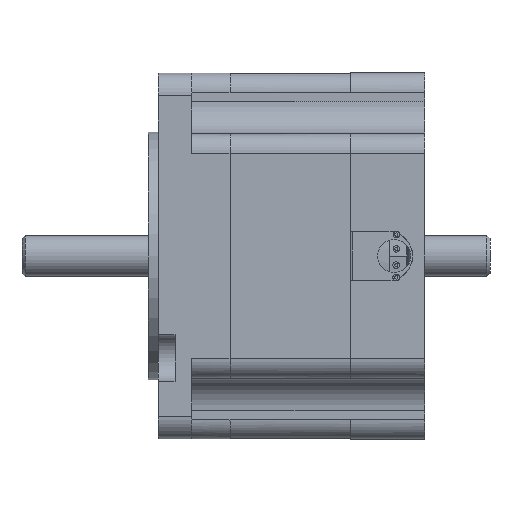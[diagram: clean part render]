
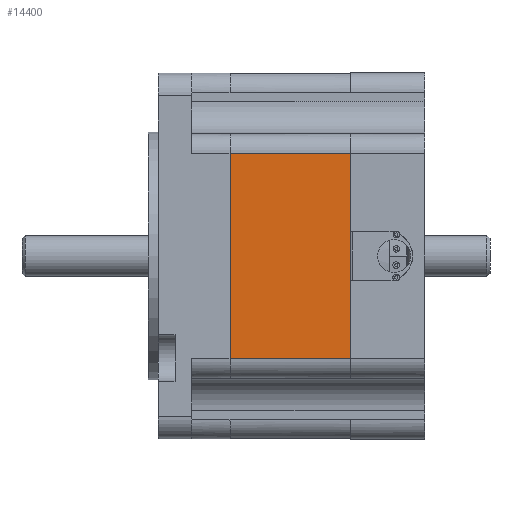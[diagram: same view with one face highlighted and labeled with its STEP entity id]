
A CAD part, front view. The second image highlights one B-rep face of the part: STEP entity #14400.
In plain terms, the highlighted planar face has unit normal (0, -1, 0).
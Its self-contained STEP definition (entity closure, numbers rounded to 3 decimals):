
#14306=CARTESIAN_POINT('',(29.494,-28.1,15.8));
#14307=VERTEX_POINT('',#14306);
#14336=CARTESIAN_POINT('',(11.,-28.1,15.8));
#14337=VERTEX_POINT('',#14336);
#14345=CARTESIAN_POINT('',(29.494,-28.1,15.8));
#14346=DIRECTION('',(-1.,0.,0.));
#14347=VECTOR('',#14346,18.494);
#14348=LINE('',#14345,#14347);
#14349=EDGE_CURVE('',#14307,#14337,#14348,.T.);
#14354=CARTESIAN_POINT('',(20.994,-28.1,0.));
#14355=DIRECTION('',(0.,0.,-1.));
#14356=DIRECTION('',(0.,-1.,0.));
#14357=AXIS2_PLACEMENT_3D('',#14354,#14356,#14355);
#14358=PLANE('',#14357);
#14359=CARTESIAN_POINT('',(29.494,-28.1,-15.8));
#14360=VERTEX_POINT('',#14359);
#14361=CARTESIAN_POINT('',(29.494,-28.1,-3.81));
#14362=VERTEX_POINT('',#14361);
#14363=CARTESIAN_POINT('',(29.494,-28.1,-15.8));
#14364=DIRECTION('',(0.,0.,1.));
#14365=VECTOR('',#14364,11.99);
#14366=LINE('',#14363,#14365);
#14367=EDGE_CURVE('',#14360,#14362,#14366,.T.);
#14368=ORIENTED_EDGE('E804',*,*,#14367,.T.);
#14369=CARTESIAN_POINT('',(29.494,-28.1,3.81));
#14370=VERTEX_POINT('',#14369);
#14371=CARTESIAN_POINT('',(29.494,-28.1,-3.81));
#14372=DIRECTION('',(0.,0.,1.));
#14373=VECTOR('',#14372,7.62);
#14374=LINE('',#14371,#14373);
#14375=EDGE_CURVE('',#14362,#14370,#14374,.T.);
#14376=ORIENTED_EDGE('E805',*,*,#14375,.T.);
#14377=CARTESIAN_POINT('',(29.494,-28.1,3.81));
#14378=DIRECTION('',(0.,0.,1.));
#14379=VECTOR('',#14378,11.99);
#14380=LINE('',#14377,#14379);
#14381=EDGE_CURVE('',#14370,#14307,#14380,.T.);
#14382=ORIENTED_EDGE('E806',*,*,#14381,.T.);
#14383=ORIENTED_EDGE('E806',*,*,#14349,.T.);
#14384=CARTESIAN_POINT('',(11.,-28.1,-15.8));
#14385=VERTEX_POINT('',#14384);
#14386=CARTESIAN_POINT('',(11.,-28.1,15.8));
#14387=DIRECTION('',(0.,0.,-1.));
#14388=VECTOR('',#14387,31.6);
#14389=LINE('',#14386,#14388);
#14390=EDGE_CURVE('',#14337,#14385,#14389,.T.);
#14391=ORIENTED_EDGE('E803',*,*,#14390,.T.);
#14392=CARTESIAN_POINT('',(29.494,-28.1,-15.8));
#14393=DIRECTION('',(-1.,0.,0.));
#14394=VECTOR('',#14393,18.494);
#14395=LINE('',#14392,#14394);
#14396=EDGE_CURVE('',#14360,#14385,#14395,.T.);
#14397=ORIENTED_EDGE('E802',*,*,#14396,.F.);
#14398=EDGE_LOOP('',(#14368,#14376,#14382,#14383,#14391,#14397));
#14399=FACE_OUTER_BOUND('',#14398,.T.);
#14400=ADVANCED_FACE('F2214',(#14399),#14358,.T.);
